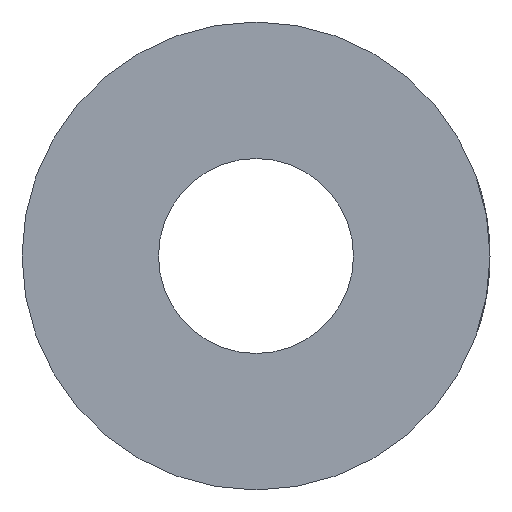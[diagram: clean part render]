
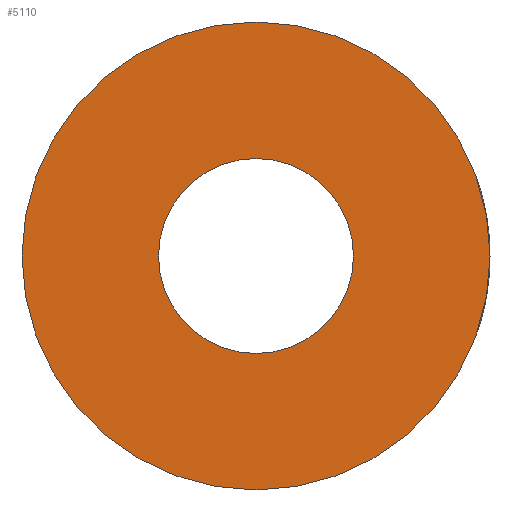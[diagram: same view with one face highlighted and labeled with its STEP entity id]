
A CAD part, left-side view. The second image highlights one B-rep face of the part: STEP entity #5110.
In plain terms, the highlighted planar face has unit normal (-1, 0, 0).
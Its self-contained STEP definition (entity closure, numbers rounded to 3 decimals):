
#114=PLANE('',#5506);
#352=CIRCLE('',#5505,6.);
#353=CIRCLE('',#5507,2.5);
#1537=ORIENTED_EDGE('',*,*,#3083,.T.);
#1538=ORIENTED_EDGE('',*,*,#3082,.F.);
#3082=EDGE_CURVE('',#3855,#3855,#352,.T.);
#3083=EDGE_CURVE('',#3856,#3856,#353,.T.);
#3855=VERTEX_POINT('',#7908);
#3856=VERTEX_POINT('',#7911);
#4365=EDGE_LOOP('',(#1537));
#4366=EDGE_LOOP('',(#1538));
#4732=FACE_BOUND('',#4365,.T.);
#4733=FACE_BOUND('',#4366,.T.);
#5110=ADVANCED_FACE('',(#4732,#4733),#114,.F.);
#5505=AXIS2_PLACEMENT_3D('',#7907,#6036,#6037);
#5506=AXIS2_PLACEMENT_3D('',#7909,#6038,#6039);
#5507=AXIS2_PLACEMENT_3D('',#7910,#6040,#6041);
#6036=DIRECTION('',(1.,0.,0.));
#6037=DIRECTION('',(0.,0.,-1.));
#6038=DIRECTION('',(1.,0.,0.));
#6039=DIRECTION('',(0.,0.,-1.));
#6040=DIRECTION('',(1.,0.,0.));
#6041=DIRECTION('',(0.,0.,-1.));
#7907=CARTESIAN_POINT('',(-11.,0.,0.));
#7908=CARTESIAN_POINT('',(-11.,0.,-6.));
#7909=CARTESIAN_POINT('',(-11.,0.,0.));
#7910=CARTESIAN_POINT('',(-11.,0.,0.));
#7911=CARTESIAN_POINT('',(-11.,0.,-2.5));
